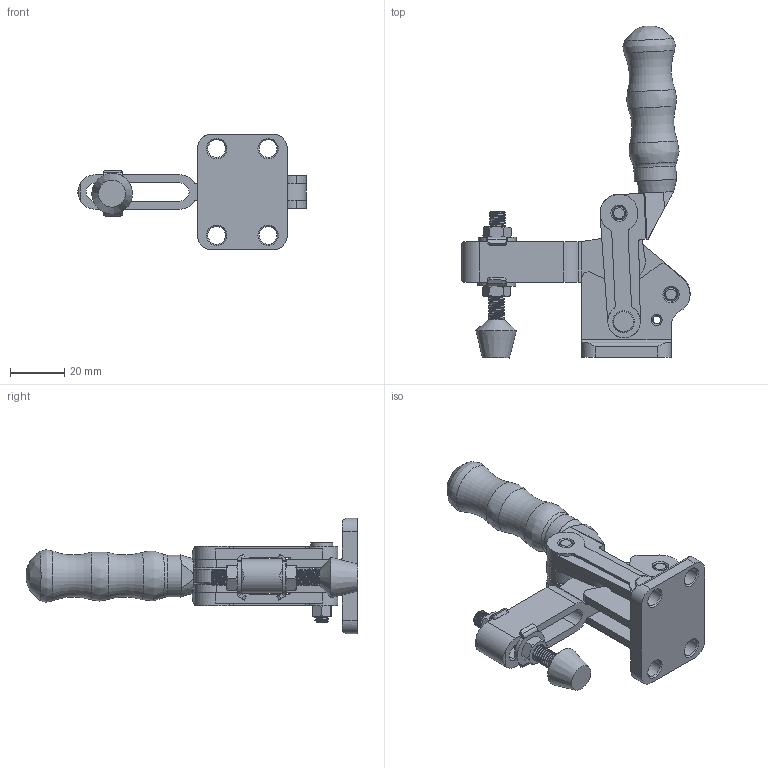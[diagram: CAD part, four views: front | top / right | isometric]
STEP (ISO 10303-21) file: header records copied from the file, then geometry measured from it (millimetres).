
FILE_DESCRIPTION(/* description */ ('STEP AP203'),/* implementation_level */ '2;1');
FILE_NAME(/* name */ 'D:\Vault_2016\Projekty\NASZ KATALOG\CLAMPTEK\STRONA\Heavy duty weldables\CＨ-70300Ｂ\ＣＨ-７０３００Ｂ_ZAMKNIETY.stp',/* time_stamp */ '2019-01-15T13:10:24+01:00',/* author */ ('CADENGINEERING4'),/* organization */ ('Î¢ÈíÖÐ¹ú'),/* preprocessor_version */ 'ST-DEVELOPER v17.2',/* originating_system */ 'Autodesk Inventor 2019',/* authorisation */ '');
FILE_SCHEMA (('AUTOMOTIVE_DESIGN { 1 0 10303 214 3 1 1 }'));
Products named in the file (15): ＣＨ-７０３００Ｂ_ZAMK
NIETY; ³¤Öá_Ä¬ÈÏ; Ì×_Ä¬ÈÏ; Ñ¹Í·_Ä¬ÈÏ; m5ÂÝÄ¸_Ä¬ÈÏ; Ñ¹°Ñ_Ä¬ÈÏ; ÂÝ¸Ë_Ä¬ÈÏ; Á¬¸Ë_Ä¬ÈÏ; TI_Ä¬ÈÏ; µ×_Ä¬ÈÏ; Öù_Ä¬ÈÏ; »ªË¾ÂÝÄ¸_Ä¬È
Ï; ¶ÌÖá_Ä¬ÈÏ; ¸ôÌ×_Ä¬ÈÏ; »ªË¾_Ä¬ÈÏ
Assembly tree (18 placements, depth 2):
  ＣＨ-７０３００Ｂ_ZAMK
NIETY
    »ªË¾ÂÝÄ¸_Ä¬È
Ï  x2
    ³¤Öá_Ä¬ÈÏ
    Ì×_Ä¬ÈÏ
    Á¬¸Ë_Ä¬ÈÏ  x2
    Ñ¹Í·_Ä¬ÈÏ
    ¶ÌÖá_Ä¬ÈÏ  x2
    m5ÂÝÄ¸_Ä¬ÈÏ
    Ñ¹°Ñ_Ä¬ÈÏ
    ÂÝ¸Ë_Ä¬ÈÏ
    »ªË¾_Ä¬ÈÏ  x2
    TI_Ä¬ÈÏ
    µ×_Ä¬ÈÏ
    Öù_Ä¬ÈÏ
    ¸ôÌ×_Ä¬ÈÏ
Bounding box: 84.19 x 122.47 x 42.5 mm (x, y, z)
Volume: 48111.3 mm3; surface area: 33985.9 mm2
Topology: 18 solids, 18 shells, 1291 faces, 3446 edges, 2313 vertices
Faces by surface type: plane 755, cylinder 319, bspline 133, cone 76, torus 6, sphere 2
Full cylindrical faces by diameter (mm): 0.853 x1, 3 x2, 5 x35, 5.16 x1, 5.2 x1, 6 x39, 6.028 x6, 6.3 x2, 6.5 x4, 8 x1, 12.517 x1, 13 x1, 14 x1, 15.5 x1
Entity records: 63449 total; most frequent: CARTESIAN_POINT 38681, ORIENTED_EDGE 5288, DIRECTION 4705, EDGE_CURVE 2644, VERTEX_POINT 1779, AXIS2_PLACEMENT_3D 1616, LINE 1473, VECTOR 1473
